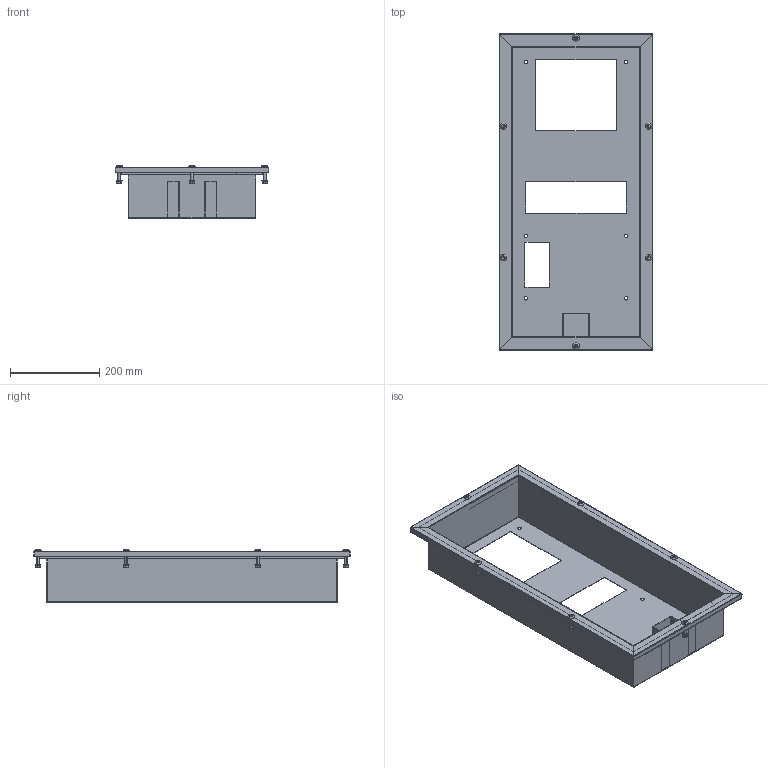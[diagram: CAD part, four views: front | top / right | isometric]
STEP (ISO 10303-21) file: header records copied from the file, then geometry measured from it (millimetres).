
FILE_DESCRIPTION (( 'STEP AP203' ), '1' );
FILE_NAME ('RAKLMCSI3.STEP', '2014-06-25T10:44:36', ( '' ), ( '' ), 'SwSTEP 2.0', 'SolidWorks 2014', '' );
FILE_SCHEMA (( 'CONFIG_CONTROL_DESIGN' ));
Length unit declared in the file: millimetre
Products named in the file (22): L00232; VIT-COMBI-M6X30-ZN; 16x15H; 16x15H_G-RAKLMCSI3; DADO-FLA-M6-ZN; DADO-FLA-M6-ZN_Hexagon Flange Nut DIN 6923 - M5 - N; L00233; RAKLMCSI3
Assembly tree (16 placements, depth 3):
  L00232
  VIT-COMBI-M6X30-ZN
  VIT-COMBI-M6X30-ZN
  16x15H
  VIT-COMBI-M6X30-ZN
Bounding box: 345 x 710 x 118.5 mm (x, y, z)
Volume: 934116 mm3; surface area: 1067516.5 mm2
Topology: 16 solids, 16 shells, 555 faces, 1277 edges, 766 vertices
Faces by surface type: plane 314, cylinder 109, bspline 60, cone 48, torus 24
Entity records: 12116 total; most frequent: CARTESIAN_POINT 3025, ORIENTED_EDGE 1454, DIRECTION 1373, EDGE_CURVE 727, LINE 509, VECTOR 509, AXIS2_PLACEMENT_3D 432, VERTEX_POINT 426
